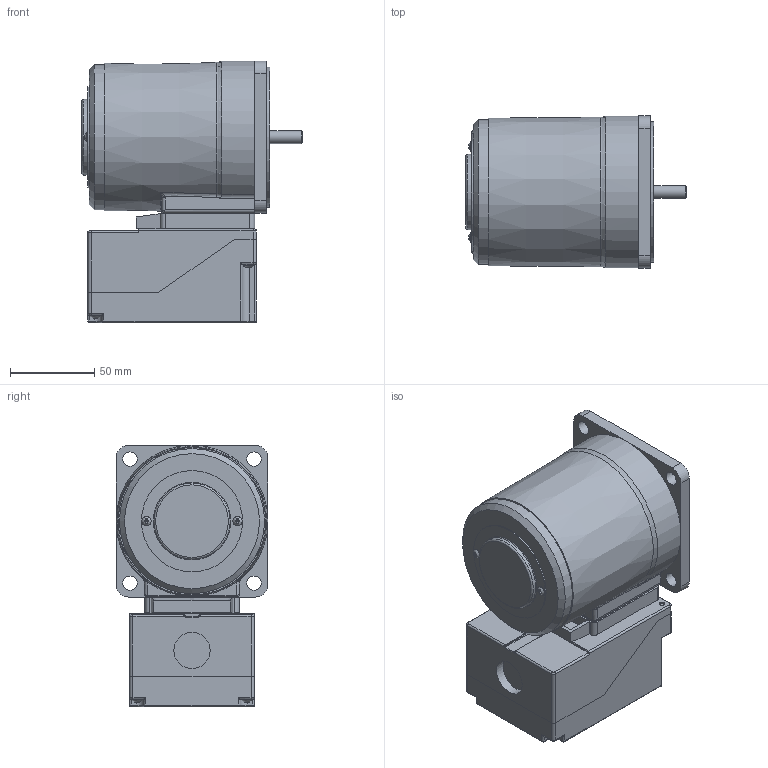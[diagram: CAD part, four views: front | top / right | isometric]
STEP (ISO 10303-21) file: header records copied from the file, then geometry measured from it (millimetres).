
FILE_DESCRIPTION(/* description */ (''),/* implementation_level */ '2;1');
FILE_NAME(/* name */ 'E:\도면작업\2016\0704) 미주향 SG 도면\3D MOTOR\TERMINAL BOX TYPE\REVERSIBLE TERMINAL BOX\SG9R40G_-T2.stp',/* time_stamp */ '2017-01-24T11:26:24+09:00',/* author */ ('jy-jung'),/* organization */ (''),/* preprocessor_version */ 'ST-DEVELOPER v15.6',/* originating_system */ 'Autodesk Inventor 2015',/* authorisation */ '');
FILE_SCHEMA (('AUTOMOTIVE_DESIGN { 1 0 10303 214 3 1 1 }'));
Length unit declared in the file: millimetre
Products named in the file (1): 부품1
Bounding box: 130.4 x 90 x 155 mm (x, y, z)
Volume: 791091.6 mm3; surface area: 133846.9 mm2
Topology: 1 solids, 8 shells, 899 faces, 2368 edges, 1512 vertices
Faces by surface type: plane 476, cylinder 300, bspline 53, torus 38, cone 20, sphere 12
Full cylindrical faces by diameter (mm): 2.5 x4, 3 x6, 3.2 x3, 3.4 x1, 3.5 x2, 4.2 x1, 4.5 x8, 5.5 x8, 5.6 x2, 6.9 x4, 7.62 x1, 8.5 x4, 21.5 x1, 40 x1, 43 x1, 45 x1, 60 x1, 83 x1, 86 x1
Entity records: 29864 total; most frequent: CARTESIAN_POINT 7180, DIRECTION 4486, ORIENTED_EDGE 4468, EDGE_CURVE 2234, AXIS2_PLACEMENT_3D 1583, VERTEX_POINT 1493, LINE 1320, VECTOR 1320
